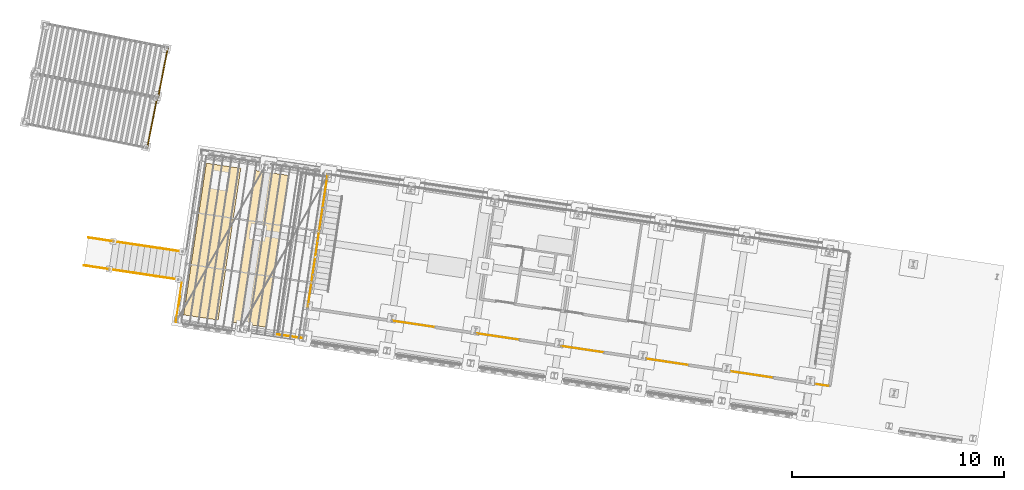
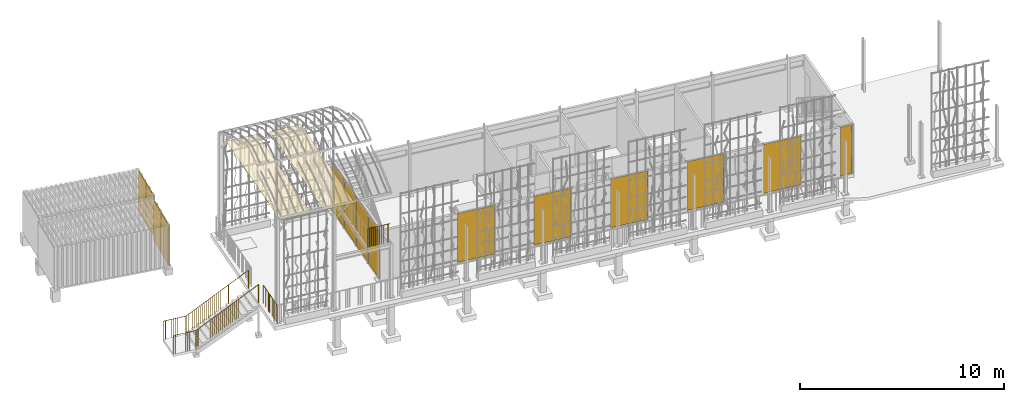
# One storey, part 137 of 142: 11 doors, 6 railings, 3 windows, 2 coverings, 5 elements without a shape of their own.
"""IFC4 building model written with IfcOpenShell, lengths in metres."""

from ifc_helpers import new_model, si_unit, direction, frame, origin_with_axes, place, context, subcontext, project, spatial, polyline, circle, outline, extrude, material, element, aggregate, save


model = new_model("IFC4")

# Units and contexts
model_context = context("Model", 3, precision=1e-05, world=origin_with_axes(), true_north=direction((0.0, 1.0)))
body_context = subcontext(model_context, "Body", "Model", "MODEL_VIEW")
ifc_project = project(units=[si_unit("LENGTHUNIT", "METRE"), si_unit("AREAUNIT", "SQUARE_METRE"), si_unit("VOLUMEUNIT", "CUBIC_METRE")], contexts=[model_context])

# Site, building, storey
site_placement = place(None, origin_with_axes())
site = spatial("IfcSite", under=ifc_project, at=site_placement, Name="Lares · Rua das Mercês · artigo 4771")
building_placement = place(site_placement, frame((15.0, 9.7, 14.65), z_axis=(0.0, 0.0, 1.0), x_axis=(0.989015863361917, -0.147809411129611, 0.0)))
building = spatial("IfcBuilding", under=site, at=building_placement, Name="Casa Sobreposta")
storey_placement = place(building_placement, origin_with_axes())
storey = spatial("IfcBuildingStorey", under=building, at=storey_placement, Name="00 · Habitação e estacionamento", Elevation=14.65)

# Doors
ifc_material_1 = material(Name="Vidro / Normalglas", Category="glass")
door_1_placement = place(storey_placement, frame((0.0, 0.0, 0.025), z_axis=(0.0, 0.0, 1.0), x_axis=(1.0, 0.0, 0.0)))
element("IfcDoor", 1, at=door_1_placement, inside=storey, material=ifc_material_1, Name="Folha de correr sul 2", OperationType="SLIDING_TO_LEFT", OverallHeight=2.918, OverallWidth=1.97133333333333, PredefinedType="DOOR", context=body_context, shape_type="SweptSolid", body=[
    extrude(outline(polyline([(6.039, 0.004), (6.039, -0.004), (4.06766666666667, -0.004), (4.06766666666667, 0.004), (6.039, 0.004)])), origin_with_axes(), (0.0, 0.0, 1.0), 2.918),
])
door_2_placement = place(storey_placement, frame((0.0, 0.0, 0.025), z_axis=(0.0, 0.0, 1.0), x_axis=(1.0, 0.0, 0.0)))
element("IfcDoor", 2, at=door_2_placement, inside=storey, material=ifc_material_1, Name="Folha de correr sul 4", OperationType="SLIDING_TO_LEFT", OverallHeight=2.918, OverallWidth=1.97133333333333, PredefinedType="DOOR", context=body_context, shape_type="SweptSolid", body=[
    extrude(outline(polyline([(10.0816666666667, 0.004), (10.0816666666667, -0.004), (8.11033333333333, -0.004), (8.11033333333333, 0.004), (10.0816666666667, 0.004)])), origin_with_axes(), (0.0, 0.0, 1.0), 2.918),
])
door_3_placement = place(storey_placement, frame((0.0, 0.0, 0.025), z_axis=(0.0, 0.0, 1.0), x_axis=(1.0, 0.0, 0.0)))
element("IfcDoor", 3, at=door_3_placement, inside=storey, material=ifc_material_1, Name="Folha de correr sul 6", OperationType="SLIDING_TO_LEFT", OverallHeight=2.918, OverallWidth=1.97133333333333, PredefinedType="DOOR", context=body_context, shape_type="SweptSolid", body=[
    extrude(outline(polyline([(14.1243333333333, 0.004), (14.1243333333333, -0.004), (12.153, -0.004), (12.153, 0.004), (14.1243333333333, 0.004)])), origin_with_axes(), (0.0, 0.0, 1.0), 2.918),
])
door_4_placement = place(storey_placement, frame((0.0, 0.0, 0.025), z_axis=(0.0, 0.0, 1.0), x_axis=(1.0, 0.0, 0.0)))
element("IfcDoor", 4, at=door_4_placement, inside=storey, material=ifc_material_1, Name="Folha de correr sul 8", OperationType="SLIDING_TO_LEFT", OverallHeight=2.918, OverallWidth=1.97133333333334, PredefinedType="DOOR", context=body_context, shape_type="SweptSolid", body=[
    extrude(outline(polyline([(18.167, 0.004), (18.167, -0.004), (16.1956666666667, -0.004), (16.1956666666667, 0.004), (18.167, 0.004)])), origin_with_axes(), (0.0, 0.0, 1.0), 2.918),
])
door_5_placement = place(storey_placement, frame((0.0, 0.0, 0.025), z_axis=(0.0, 0.0, 1.0), x_axis=(1.0, 0.0, 0.0)))
element("IfcDoor", 5, at=door_5_placement, inside=storey, material=ifc_material_1, Name="Folha de correr sul 10", OperationType="SLIDING_TO_LEFT", OverallHeight=2.918, OverallWidth=1.97133333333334, PredefinedType="DOOR", context=body_context, shape_type="SweptSolid", body=[
    extrude(outline(polyline([(22.2096666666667, 0.004), (22.2096666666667, -0.004), (20.2383333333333, -0.004), (20.2383333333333, 0.004), (22.2096666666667, 0.004)])), origin_with_axes(), (0.0, 0.0, 1.0), 2.918),
])
door_6_placement = place(storey_placement, frame((0.0, 0.0, 0.025), z_axis=(0.0, 0.0, 1.0), x_axis=(1.0, 0.0, 0.0)))
element("IfcDoor", 6, at=door_6_placement, inside=storey, material=ifc_material_1, Name="Folha de correr sul 12", OperationType="SLIDING_TO_LEFT", OverallHeight=2.918, OverallWidth=0.614000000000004, PredefinedType="DOOR", context=body_context, shape_type="SweptSolid", body=[
    extrude(outline(polyline([(24.895, 0.004), (24.895, -0.004), (24.281, -0.004), (24.281, 0.004), (24.895, 0.004)])), origin_with_axes(), (0.0, 0.0, 1.0), 2.918),
])

# Windows
window_1_placement = place(storey_placement, frame((0.0, 0.0, 0.025), z_axis=(0.0, 0.0, 1.0), x_axis=(1.0, 0.0, 0.0)))
element("IfcWindow", 7, at=window_1_placement, inside=storey, material=ifc_material_1, Name="Fachada poente integralmente envidraçada · módulo 1", OverallHeight=2.918, OverallWidth=1.55, PartitioningType="SINGLE_PANEL", PredefinedType="WINDOW", context=body_context, shape_type="SweptSolid", body=[
    extrude(outline(polyline([(-0.004, 1.575), (0.004, 1.575), (0.004, 0.025), (-0.004, 0.025), (-0.004, 1.575)])), origin_with_axes(), (0.0, 0.0, 1.0), 2.918),
])
window_2_placement = place(storey_placement, frame((0.0, 0.0, 0.025), z_axis=(0.0, 0.0, 1.0), x_axis=(1.0, 0.0, 0.0)))
element("IfcWindow", 8, at=window_2_placement, inside=storey, material=ifc_material_1, Name="Fachada poente integralmente envidraçada · módulo 2", OverallHeight=2.918, OverallWidth=1.55, PartitioningType="SINGLE_PANEL", PredefinedType="WINDOW", context=body_context, shape_type="SweptSolid", body=[
    extrude(outline(polyline([(-0.004, 3.175), (0.004, 3.175), (0.004, 1.625), (-0.004, 1.625), (-0.004, 3.175)])), origin_with_axes(), (0.0, 0.0, 1.0), 2.918),
])
window_3_placement = place(storey_placement, frame((0.0, 0.0, 0.025), z_axis=(0.0, 0.0, 1.0), x_axis=(1.0, 0.0, 0.0)))
element("IfcWindow", 9, at=window_3_placement, inside=storey, material=ifc_material_1, Name="Fachada poente integralmente envidraçada · módulo 3", OverallHeight=2.918, OverallWidth=1.55, PartitioningType="SINGLE_PANEL", PredefinedType="WINDOW", context=body_context, shape_type="SweptSolid", body=[
    extrude(outline(polyline([(-0.004, 4.775), (0.004, 4.775), (0.004, 3.225), (-0.004, 3.225), (-0.004, 4.775)])), origin_with_axes(), (0.0, 0.0, 1.0), 2.918),
])

# Door
door_7_placement = place(storey_placement, frame((0.0, 0.0, 0.025), z_axis=(0.0, 0.0, 1.0), x_axis=(1.0, 0.0, 0.0)))
element("IfcDoor", 10, at=door_7_placement, inside=storey, material=ifc_material_1, Name="Fachada poente integralmente envidraçada · módulo 4", OperationType="SLIDING_TO_LEFT", OverallHeight=2.918, OverallWidth=1.55, PredefinedType="DOOR", context=body_context, shape_type="SweptSolid", body=[
    extrude(outline(polyline([(-0.004, 6.375), (0.004, 6.375), (0.004, 4.825), (-0.004, 4.825), (-0.004, 6.375)])), origin_with_axes(), (0.0, 0.0, 1.0), 2.918),
])

# Assembly, doors
assembly_1_placement = place(storey_placement, frame((-14.4335953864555, 9.04888612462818, 0.0), z_axis=(0.0, 0.0, 1.0), x_axis=(0.999032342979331, -0.0439815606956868, 0.0)))
assembly_1 = element("IfcElementAssembly", 11, at=assembly_1_placement, inside=storey, Name="Contentor existente 1 · 6 m", ObjectType="EXISTING_SHIPPING_CONTAINER", PredefinedType="USERDEFINED")
ifc_material_2 = material(Name="Contentor · pintura 1", Category="steel")
door_8_placement = place(assembly_1_placement, frame((0.0, 0.0, -0.913141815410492), z_axis=(0.0, 0.0, 1.0), x_axis=(1.0, 0.0, 0.0)))
door_8 = element("IfcDoor", 12, at=door_8_placement, material=ifc_material_2, Name="Contentor · porta dupla", OperationType="SINGLE_SWING_LEFT", OverallHeight=2.39, OverallWidth=1.17, PredefinedType="DOOR", context=body_context, shape_type="SweptSolid", body=[
    extrude(outline(polyline([(5.955, 1.21), (6.005, 1.21), (6.005, 0.04), (5.955, 0.04), (5.955, 1.21)])), origin_with_axes(), (0.0, 0.0, 1.0), 2.39),
])
door_9_placement = place(assembly_1_placement, frame((0.0, 0.0, -0.913141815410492), z_axis=(0.0, 0.0, 1.0), x_axis=(1.0, 0.0, 0.0)))
door_9 = element("IfcDoor", 13, at=door_9_placement, material=ifc_material_2, Name="Contentor · porta dupla", OperationType="SINGLE_SWING_LEFT", OverallHeight=2.39, OverallWidth=1.17, PredefinedType="DOOR", context=body_context, shape_type="SweptSolid", body=[
    extrude(outline(polyline([(5.955, 2.39), (6.005, 2.39), (6.005, 1.22), (5.955, 1.22), (5.955, 2.39)])), origin_with_axes(), (0.0, 0.0, 1.0), 2.39),
])
aggregate(assembly_1, [door_8, door_9])

assembly_2_placement = place(storey_placement, frame((-14.5932944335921, 6.63122214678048, 0.0), z_axis=(0.0, 0.0, 1.0), x_axis=(0.998832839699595, -0.0483007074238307, 0.0)))
assembly_2 = element("IfcElementAssembly", 14, at=assembly_2_placement, inside=storey, Name="Contentor existente 2 · 6 m", ObjectType="EXISTING_SHIPPING_CONTAINER", PredefinedType="USERDEFINED")
ifc_material_3 = material(Name="Contentor · pintura 2", Category="steel")
door_10_placement = place(assembly_2_placement, frame((0.0, 0.0, -1.06875169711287), z_axis=(0.0, 0.0, 1.0), x_axis=(1.0, 0.0, 0.0)))
door_10 = element("IfcDoor", 15, at=door_10_placement, material=ifc_material_3, Name="Contentor · porta dupla", OperationType="SINGLE_SWING_LEFT", OverallHeight=2.39, OverallWidth=1.17, PredefinedType="DOOR", context=body_context, shape_type="SweptSolid", body=[
    extrude(outline(polyline([(5.955, 1.21), (6.005, 1.21), (6.005, 0.04), (5.955, 0.04), (5.955, 1.21)])), origin_with_axes(), (0.0, 0.0, 1.0), 2.39),
])
door_11_placement = place(assembly_2_placement, frame((0.0, 0.0, -1.06875169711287), z_axis=(0.0, 0.0, 1.0), x_axis=(1.0, 0.0, 0.0)))
door_11 = element("IfcDoor", 16, at=door_11_placement, material=ifc_material_3, Name="Contentor · porta dupla", OperationType="SINGLE_SWING_LEFT", OverallHeight=2.39, OverallWidth=1.17, PredefinedType="DOOR", context=body_context, shape_type="SweptSolid", body=[
    extrude(outline(polyline([(5.955, 2.39), (6.005, 2.39), (6.005, 1.22), (5.955, 1.22), (5.955, 2.39)])), origin_with_axes(), (0.0, 0.0, 1.0), 2.39),
])
aggregate(assembly_2, [door_10, door_11])

# Assembly, railing
assembly_3_placement = place(storey_placement, origin_with_axes())
assembly_3 = element("IfcElementAssembly", 17, at=assembly_3_placement, inside=storey, Name="Pódio · terraço, casa térrea e cisterna", ObjectType="CISTERN_PODIUM", PredefinedType="USERDEFINED")
ifc_material_4 = material(Name="Aço pintado / Stahl lackiert", Category="steel")
railing_1_placement = place(assembly_3_placement, origin_with_axes())
railing_1 = element("IfcRailing", 18, at=railing_1_placement, material=ifc_material_4, Name="Pódio · guarda poente sul", PredefinedType="GUARDRAIL", context=body_context, shape_type="SweptSolid", body=[
    extrude(circle(Radius=0.015), frame((-6.05, -1.55, 1.06), z_axis=(0.0, 1.0, 0.0), x_axis=(1.0, 0.0, 0.0)), (0.0, 0.0, 1.0), 1.85),
    extrude(circle(Radius=0.0175), frame((-6.05, -1.55, -0.04), z_axis=(0.0, 0.0, 1.0), x_axis=(1.0, 0.0, 0.0)), (0.0, 0.0, 1.0), 1.1),
    extrude(circle(Radius=0.006), frame((-6.05, -1.44117647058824, -0.04), z_axis=(0.0, 0.0, 1.0), x_axis=(1.0, 0.0, 0.0)), (0.0, 0.0, 1.0), 1.1),
    extrude(circle(Radius=0.006), frame((-6.05, -1.33235294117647, -0.04), z_axis=(0.0, 0.0, 1.0), x_axis=(1.0, 0.0, 0.0)), (0.0, 0.0, 1.0), 1.1),
    extrude(circle(Radius=0.006), frame((-6.05, -1.22352941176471, -0.04), z_axis=(0.0, 0.0, 1.0), x_axis=(1.0, 0.0, 0.0)), (0.0, 0.0, 1.0), 1.1),
    extrude(circle(Radius=0.006), frame((-6.05, -1.11470588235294, -0.04), z_axis=(0.0, 0.0, 1.0), x_axis=(1.0, 0.0, 0.0)), (0.0, 0.0, 1.0), 1.1),
    extrude(circle(Radius=0.006), frame((-6.05, -1.00588235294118, -0.04), z_axis=(0.0, 0.0, 1.0), x_axis=(1.0, 0.0, 0.0)), (0.0, 0.0, 1.0), 1.1),
    extrude(circle(Radius=0.006), frame((-6.05, -0.897058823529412, -0.04), z_axis=(0.0, 0.0, 1.0), x_axis=(1.0, 0.0, 0.0)), (0.0, 0.0, 1.0), 1.1),
    extrude(circle(Radius=0.006), frame((-6.05, -0.788235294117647, -0.04), z_axis=(0.0, 0.0, 1.0), x_axis=(1.0, 0.0, 0.0)), (0.0, 0.0, 1.0), 1.1),
    extrude(circle(Radius=0.006), frame((-6.05, -0.679411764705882, -0.04), z_axis=(0.0, 0.0, 1.0), x_axis=(1.0, 0.0, 0.0)), (0.0, 0.0, 1.0), 1.1),
    extrude(circle(Radius=0.006), frame((-6.05, -0.570588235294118, -0.04), z_axis=(0.0, 0.0, 1.0), x_axis=(1.0, 0.0, 0.0)), (0.0, 0.0, 1.0), 1.1),
    extrude(circle(Radius=0.0175), frame((-6.05, -0.461764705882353, -0.04), z_axis=(0.0, 0.0, 1.0), x_axis=(1.0, 0.0, 0.0)), (0.0, 0.0, 1.0), 1.1),
    extrude(circle(Radius=0.006), frame((-6.05, -0.352941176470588, -0.04), z_axis=(0.0, 0.0, 1.0), x_axis=(1.0, 0.0, 0.0)), (0.0, 0.0, 1.0), 1.1),
    extrude(circle(Radius=0.006), frame((-6.05, -0.244117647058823, -0.04), z_axis=(0.0, 0.0, 1.0), x_axis=(1.0, 0.0, 0.0)), (0.0, 0.0, 1.0), 1.1),
    extrude(circle(Radius=0.006), frame((-6.05, -0.135294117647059, -0.04), z_axis=(0.0, 0.0, 1.0), x_axis=(1.0, 0.0, 0.0)), (0.0, 0.0, 1.0), 1.1),
    extrude(circle(Radius=0.006), frame((-6.05, -0.0264705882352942, -0.04), z_axis=(0.0, 0.0, 1.0), x_axis=(1.0, 0.0, 0.0)), (0.0, 0.0, 1.0), 1.1),
    extrude(circle(Radius=0.006), frame((-6.05, 0.0823529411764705, -0.04), z_axis=(0.0, 0.0, 1.0), x_axis=(1.0, 0.0, 0.0)), (0.0, 0.0, 1.0), 1.1),
    extrude(circle(Radius=0.006), frame((-6.05, 0.191176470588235, -0.04), z_axis=(0.0, 0.0, 1.0), x_axis=(1.0, 0.0, 0.0)), (0.0, 0.0, 1.0), 1.1),
    extrude(circle(Radius=0.006), frame((-6.05, 0.3, -0.04), z_axis=(0.0, 0.0, 1.0), x_axis=(1.0, 0.0, 0.0)), (0.0, 0.0, 1.0), 1.1),
])
aggregate(assembly_3, [railing_1])

# Stair, railings
stair_placement = place(storey_placement, origin_with_axes())
stair = element("IfcStair", 19, at=stair_placement, inside=storey, Name="Jardim · escada pela fachada poente", PredefinedType="STRAIGHT_RUN_STAIR")
railing_2_placement = place(stair_placement, origin_with_axes())
railing_2 = element("IfcRailing", 20, at=railing_2_placement, material=ifc_material_4, Name="Jardim · corrimão poente", PredefinedType="GUARDRAIL", context=body_context, shape_type="SweptSolid", body=[
    extrude(circle(Radius=0.015), frame((-6.25, 0.435, 1.06), z_axis=(-0.865486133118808, 0.0, -0.500932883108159), x_axis=(0.0, 1.0, 0.0)), (0.0, 0.0, 1.0), 3.81288604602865),
    extrude(circle(Radius=0.0175), frame((-6.25, 0.435, -0.04), z_axis=(0.0, 0.0, 1.0), x_axis=(1.0, 0.0, 0.0)), (0.0, 0.0, 1.0), 1.1),
    extrude(circle(Radius=0.006), frame((-6.35645161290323, 0.435, -0.101612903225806), z_axis=(0.0, 0.0, 1.0), x_axis=(1.0, 0.0, 0.0)), (0.0, 0.0, 1.0), 1.1),
    extrude(circle(Radius=0.006), frame((-6.46290322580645, 0.435, -0.163225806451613), z_axis=(0.0, 0.0, 1.0), x_axis=(1.0, 0.0, 0.0)), (0.0, 0.0, 1.0), 1.1),
    extrude(circle(Radius=0.006), frame((-6.56935483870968, 0.435, -0.224838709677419), z_axis=(0.0, 0.0, 1.0), x_axis=(1.0, 0.0, 0.0)), (0.0, 0.0, 1.0), 1.1),
    extrude(circle(Radius=0.006), frame((-6.6758064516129, 0.435, -0.286451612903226), z_axis=(0.0, 0.0, 1.0), x_axis=(1.0, 0.0, 0.0)), (0.0, 0.0, 1.0), 1.1),
    extrude(circle(Radius=0.006), frame((-6.78225806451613, 0.435, -0.348064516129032), z_axis=(0.0, 0.0, 1.0), x_axis=(1.0, 0.0, 0.0)), (0.0, 0.0, 1.0), 1.1),
    extrude(circle(Radius=0.006), frame((-6.88870967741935, 0.435, -0.409677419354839), z_axis=(0.0, 0.0, 1.0), x_axis=(1.0, 0.0, 0.0)), (0.0, 0.0, 1.0), 1.1),
    extrude(circle(Radius=0.006), frame((-6.99516129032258, 0.435, -0.471290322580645), z_axis=(0.0, 0.0, 1.0), x_axis=(1.0, 0.0, 0.0)), (0.0, 0.0, 1.0), 1.1),
    extrude(circle(Radius=0.006), frame((-7.10161290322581, 0.435, -0.532903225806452), z_axis=(0.0, 0.0, 1.0), x_axis=(1.0, 0.0, 0.0)), (0.0, 0.0, 1.0), 1.1),
    extrude(circle(Radius=0.006), frame((-7.20806451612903, 0.435, -0.594516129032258), z_axis=(0.0, 0.0, 1.0), x_axis=(1.0, 0.0, 0.0)), (0.0, 0.0, 1.0), 1.1),
    extrude(circle(Radius=0.0175), frame((-7.31451612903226, 0.435, -0.656129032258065), z_axis=(0.0, 0.0, 1.0), x_axis=(1.0, 0.0, 0.0)), (0.0, 0.0, 1.0), 1.1),
    extrude(circle(Radius=0.006), frame((-7.42096774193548, 0.435, -0.717741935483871), z_axis=(0.0, 0.0, 1.0), x_axis=(1.0, 0.0, 0.0)), (0.0, 0.0, 1.0), 1.1),
    extrude(circle(Radius=0.006), frame((-7.52741935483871, 0.435, -0.779354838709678), z_axis=(0.0, 0.0, 1.0), x_axis=(1.0, 0.0, 0.0)), (0.0, 0.0, 1.0), 1.1),
    extrude(circle(Radius=0.006), frame((-7.63387096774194, 0.435, -0.840967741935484), z_axis=(0.0, 0.0, 1.0), x_axis=(1.0, 0.0, 0.0)), (0.0, 0.0, 1.0), 1.1),
    extrude(circle(Radius=0.006), frame((-7.74032258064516, 0.435, -0.902580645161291), z_axis=(0.0, 0.0, 1.0), x_axis=(1.0, 0.0, 0.0)), (0.0, 0.0, 1.0), 1.1),
    extrude(circle(Radius=0.006), frame((-7.84677419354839, 0.435, -0.964193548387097), z_axis=(0.0, 0.0, 1.0), x_axis=(1.0, 0.0, 0.0)), (0.0, 0.0, 1.0), 1.1),
    extrude(circle(Radius=0.006), frame((-7.95322580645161, 0.435, -1.0258064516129), z_axis=(0.0, 0.0, 1.0), x_axis=(1.0, 0.0, 0.0)), (0.0, 0.0, 1.0), 1.1),
    extrude(circle(Radius=0.006), frame((-8.05967741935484, 0.435, -1.08741935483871), z_axis=(0.0, 0.0, 1.0), x_axis=(1.0, 0.0, 0.0)), (0.0, 0.0, 1.0), 1.1),
    extrude(circle(Radius=0.006), frame((-8.16612903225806, 0.435, -1.14903225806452), z_axis=(0.0, 0.0, 1.0), x_axis=(1.0, 0.0, 0.0)), (0.0, 0.0, 1.0), 1.1),
    extrude(circle(Radius=0.006), frame((-8.27258064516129, 0.435, -1.21064516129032), z_axis=(0.0, 0.0, 1.0), x_axis=(1.0, 0.0, 0.0)), (0.0, 0.0, 1.0), 1.1),
    extrude(circle(Radius=0.0175), frame((-8.37903225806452, 0.435, -1.27225806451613), z_axis=(0.0, 0.0, 1.0), x_axis=(1.0, 0.0, 0.0)), (0.0, 0.0, 1.0), 1.1),
    extrude(circle(Radius=0.006), frame((-8.48548387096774, 0.435, -1.33387096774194), z_axis=(0.0, 0.0, 1.0), x_axis=(1.0, 0.0, 0.0)), (0.0, 0.0, 1.0), 1.1),
    extrude(circle(Radius=0.006), frame((-8.59193548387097, 0.435, -1.39548387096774), z_axis=(0.0, 0.0, 1.0), x_axis=(1.0, 0.0, 0.0)), (0.0, 0.0, 1.0), 1.1),
    extrude(circle(Radius=0.006), frame((-8.69838709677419, 0.435, -1.45709677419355), z_axis=(0.0, 0.0, 1.0), x_axis=(1.0, 0.0, 0.0)), (0.0, 0.0, 1.0), 1.1),
    extrude(circle(Radius=0.006), frame((-8.80483870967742, 0.435, -1.51870967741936), z_axis=(0.0, 0.0, 1.0), x_axis=(1.0, 0.0, 0.0)), (0.0, 0.0, 1.0), 1.1),
    extrude(circle(Radius=0.006), frame((-8.91129032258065, 0.435, -1.58032258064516), z_axis=(0.0, 0.0, 1.0), x_axis=(1.0, 0.0, 0.0)), (0.0, 0.0, 1.0), 1.1),
    extrude(circle(Radius=0.006), frame((-9.01774193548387, 0.435, -1.64193548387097), z_axis=(0.0, 0.0, 1.0), x_axis=(1.0, 0.0, 0.0)), (0.0, 0.0, 1.0), 1.1),
    extrude(circle(Radius=0.006), frame((-9.1241935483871, 0.435, -1.70354838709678), z_axis=(0.0, 0.0, 1.0), x_axis=(1.0, 0.0, 0.0)), (0.0, 0.0, 1.0), 1.1),
    extrude(circle(Radius=0.006), frame((-9.23064516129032, 0.435, -1.76516129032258), z_axis=(0.0, 0.0, 1.0), x_axis=(1.0, 0.0, 0.0)), (0.0, 0.0, 1.0), 1.1),
    extrude(circle(Radius=0.006), frame((-9.33709677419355, 0.435, -1.82677419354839), z_axis=(0.0, 0.0, 1.0), x_axis=(1.0, 0.0, 0.0)), (0.0, 0.0, 1.0), 1.1),
    extrude(circle(Radius=0.0175), frame((-9.44354838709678, 0.435, -1.88838709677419), z_axis=(0.0, 0.0, 1.0), x_axis=(1.0, 0.0, 0.0)), (0.0, 0.0, 1.0), 1.1),
    extrude(circle(Radius=0.006), frame((-9.55, 0.435, -1.95), z_axis=(0.0, 0.0, 1.0), x_axis=(1.0, 0.0, 0.0)), (0.0, 0.0, 1.0), 1.1),
])
railing_3_placement = place(stair_placement, origin_with_axes())
railing_3 = element("IfcRailing", 21, at=railing_3_placement, material=ifc_material_4, Name="Jardim · guarda do patamar", PredefinedType="GUARDRAIL", context=body_context, shape_type="SweptSolid", body=[
    extrude(circle(Radius=0.015), frame((-9.55, 0.435, -0.850000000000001), z_axis=(-1.0, 0.0, 0.0), x_axis=(0.0, 1.0, 0.0)), (0.0, 0.0, 1.0), 1.2),
    extrude(circle(Radius=0.0175), frame((-9.55, 0.435, -1.95), z_axis=(0.0, 0.0, 1.0), x_axis=(1.0, 0.0, 0.0)), (0.0, 0.0, 1.0), 1.1),
    extrude(circle(Radius=0.006), frame((-9.65909090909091, 0.435, -1.95), z_axis=(0.0, 0.0, 1.0), x_axis=(1.0, 0.0, 0.0)), (0.0, 0.0, 1.0), 1.1),
    extrude(circle(Radius=0.006), frame((-9.76818181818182, 0.435, -1.95), z_axis=(0.0, 0.0, 1.0), x_axis=(1.0, 0.0, 0.0)), (0.0, 0.0, 1.0), 1.1),
    extrude(circle(Radius=0.006), frame((-9.87727272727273, 0.435, -1.95), z_axis=(0.0, 0.0, 1.0), x_axis=(1.0, 0.0, 0.0)), (0.0, 0.0, 1.0), 1.1),
    extrude(circle(Radius=0.006), frame((-9.98636363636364, 0.435, -1.95), z_axis=(0.0, 0.0, 1.0), x_axis=(1.0, 0.0, 0.0)), (0.0, 0.0, 1.0), 1.1),
    extrude(circle(Radius=0.006), frame((-10.0954545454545, 0.435, -1.95), z_axis=(0.0, 0.0, 1.0), x_axis=(1.0, 0.0, 0.0)), (0.0, 0.0, 1.0), 1.1),
    extrude(circle(Radius=0.006), frame((-10.2045454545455, 0.435, -1.95), z_axis=(0.0, 0.0, 1.0), x_axis=(1.0, 0.0, 0.0)), (0.0, 0.0, 1.0), 1.1),
    extrude(circle(Radius=0.006), frame((-10.3136363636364, 0.435, -1.95), z_axis=(0.0, 0.0, 1.0), x_axis=(1.0, 0.0, 0.0)), (0.0, 0.0, 1.0), 1.1),
    extrude(circle(Radius=0.006), frame((-10.4227272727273, 0.435, -1.95), z_axis=(0.0, 0.0, 1.0), x_axis=(1.0, 0.0, 0.0)), (0.0, 0.0, 1.0), 1.1),
    extrude(circle(Radius=0.006), frame((-10.5318181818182, 0.435, -1.95), z_axis=(0.0, 0.0, 1.0), x_axis=(1.0, 0.0, 0.0)), (0.0, 0.0, 1.0), 1.1),
    extrude(circle(Radius=0.0175), frame((-10.6409090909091, 0.435, -1.95), z_axis=(0.0, 0.0, 1.0), x_axis=(1.0, 0.0, 0.0)), (0.0, 0.0, 1.0), 1.1),
    extrude(circle(Radius=0.006), frame((-10.75, 0.435, -1.95), z_axis=(0.0, 0.0, 1.0), x_axis=(1.0, 0.0, 0.0)), (0.0, 0.0, 1.0), 1.1),
])
railing_4_placement = place(stair_placement, origin_with_axes())
railing_4 = element("IfcRailing", 22, at=railing_4_placement, material=ifc_material_4, Name="Jardim · corrimão poente", PredefinedType="GUARDRAIL", context=body_context, shape_type="SweptSolid", body=[
    extrude(circle(Radius=0.015), frame((-6.25, 1.765, 1.06), z_axis=(-0.865486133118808, 0.0, -0.500932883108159), x_axis=(0.0, 1.0, 0.0)), (0.0, 0.0, 1.0), 3.81288604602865),
    extrude(circle(Radius=0.0175), frame((-6.25, 1.765, -0.04), z_axis=(0.0, 0.0, 1.0), x_axis=(1.0, 0.0, 0.0)), (0.0, 0.0, 1.0), 1.1),
    extrude(circle(Radius=0.006), frame((-6.35645161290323, 1.765, -0.101612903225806), z_axis=(0.0, 0.0, 1.0), x_axis=(1.0, 0.0, 0.0)), (0.0, 0.0, 1.0), 1.1),
    extrude(circle(Radius=0.006), frame((-6.46290322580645, 1.765, -0.163225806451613), z_axis=(0.0, 0.0, 1.0), x_axis=(1.0, 0.0, 0.0)), (0.0, 0.0, 1.0), 1.1),
    extrude(circle(Radius=0.006), frame((-6.56935483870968, 1.765, -0.224838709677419), z_axis=(0.0, 0.0, 1.0), x_axis=(1.0, 0.0, 0.0)), (0.0, 0.0, 1.0), 1.1),
    extrude(circle(Radius=0.006), frame((-6.6758064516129, 1.765, -0.286451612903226), z_axis=(0.0, 0.0, 1.0), x_axis=(1.0, 0.0, 0.0)), (0.0, 0.0, 1.0), 1.1),
    extrude(circle(Radius=0.006), frame((-6.78225806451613, 1.765, -0.348064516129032), z_axis=(0.0, 0.0, 1.0), x_axis=(1.0, 0.0, 0.0)), (0.0, 0.0, 1.0), 1.1),
    extrude(circle(Radius=0.006), frame((-6.88870967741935, 1.765, -0.409677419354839), z_axis=(0.0, 0.0, 1.0), x_axis=(1.0, 0.0, 0.0)), (0.0, 0.0, 1.0), 1.1),
    extrude(circle(Radius=0.006), frame((-6.99516129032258, 1.765, -0.471290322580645), z_axis=(0.0, 0.0, 1.0), x_axis=(1.0, 0.0, 0.0)), (0.0, 0.0, 1.0), 1.1),
    extrude(circle(Radius=0.006), frame((-7.10161290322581, 1.765, -0.532903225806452), z_axis=(0.0, 0.0, 1.0), x_axis=(1.0, 0.0, 0.0)), (0.0, 0.0, 1.0), 1.1),
    extrude(circle(Radius=0.006), frame((-7.20806451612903, 1.765, -0.594516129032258), z_axis=(0.0, 0.0, 1.0), x_axis=(1.0, 0.0, 0.0)), (0.0, 0.0, 1.0), 1.1),
    extrude(circle(Radius=0.0175), frame((-7.31451612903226, 1.765, -0.656129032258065), z_axis=(0.0, 0.0, 1.0), x_axis=(1.0, 0.0, 0.0)), (0.0, 0.0, 1.0), 1.1),
    extrude(circle(Radius=0.006), frame((-7.42096774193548, 1.765, -0.717741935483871), z_axis=(0.0, 0.0, 1.0), x_axis=(1.0, 0.0, 0.0)), (0.0, 0.0, 1.0), 1.1),
    extrude(circle(Radius=0.006), frame((-7.52741935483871, 1.765, -0.779354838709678), z_axis=(0.0, 0.0, 1.0), x_axis=(1.0, 0.0, 0.0)), (0.0, 0.0, 1.0), 1.1),
    extrude(circle(Radius=0.006), frame((-7.63387096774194, 1.765, -0.840967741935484), z_axis=(0.0, 0.0, 1.0), x_axis=(1.0, 0.0, 0.0)), (0.0, 0.0, 1.0), 1.1),
    extrude(circle(Radius=0.006), frame((-7.74032258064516, 1.765, -0.902580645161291), z_axis=(0.0, 0.0, 1.0), x_axis=(1.0, 0.0, 0.0)), (0.0, 0.0, 1.0), 1.1),
    extrude(circle(Radius=0.006), frame((-7.84677419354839, 1.765, -0.964193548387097), z_axis=(0.0, 0.0, 1.0), x_axis=(1.0, 0.0, 0.0)), (0.0, 0.0, 1.0), 1.1),
    extrude(circle(Radius=0.006), frame((-7.95322580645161, 1.765, -1.0258064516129), z_axis=(0.0, 0.0, 1.0), x_axis=(1.0, 0.0, 0.0)), (0.0, 0.0, 1.0), 1.1),
    extrude(circle(Radius=0.006), frame((-8.05967741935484, 1.765, -1.08741935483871), z_axis=(0.0, 0.0, 1.0), x_axis=(1.0, 0.0, 0.0)), (0.0, 0.0, 1.0), 1.1),
    extrude(circle(Radius=0.006), frame((-8.16612903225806, 1.765, -1.14903225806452), z_axis=(0.0, 0.0, 1.0), x_axis=(1.0, 0.0, 0.0)), (0.0, 0.0, 1.0), 1.1),
    extrude(circle(Radius=0.006), frame((-8.27258064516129, 1.765, -1.21064516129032), z_axis=(0.0, 0.0, 1.0), x_axis=(1.0, 0.0, 0.0)), (0.0, 0.0, 1.0), 1.1),
    extrude(circle(Radius=0.0175), frame((-8.37903225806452, 1.765, -1.27225806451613), z_axis=(0.0, 0.0, 1.0), x_axis=(1.0, 0.0, 0.0)), (0.0, 0.0, 1.0), 1.1),
    extrude(circle(Radius=0.006), frame((-8.48548387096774, 1.765, -1.33387096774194), z_axis=(0.0, 0.0, 1.0), x_axis=(1.0, 0.0, 0.0)), (0.0, 0.0, 1.0), 1.1),
    extrude(circle(Radius=0.006), frame((-8.59193548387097, 1.765, -1.39548387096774), z_axis=(0.0, 0.0, 1.0), x_axis=(1.0, 0.0, 0.0)), (0.0, 0.0, 1.0), 1.1),
    extrude(circle(Radius=0.006), frame((-8.69838709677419, 1.765, -1.45709677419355), z_axis=(0.0, 0.0, 1.0), x_axis=(1.0, 0.0, 0.0)), (0.0, 0.0, 1.0), 1.1),
    extrude(circle(Radius=0.006), frame((-8.80483870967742, 1.765, -1.51870967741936), z_axis=(0.0, 0.0, 1.0), x_axis=(1.0, 0.0, 0.0)), (0.0, 0.0, 1.0), 1.1),
    extrude(circle(Radius=0.006), frame((-8.91129032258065, 1.765, -1.58032258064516), z_axis=(0.0, 0.0, 1.0), x_axis=(1.0, 0.0, 0.0)), (0.0, 0.0, 1.0), 1.1),
    extrude(circle(Radius=0.006), frame((-9.01774193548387, 1.765, -1.64193548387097), z_axis=(0.0, 0.0, 1.0), x_axis=(1.0, 0.0, 0.0)), (0.0, 0.0, 1.0), 1.1),
    extrude(circle(Radius=0.006), frame((-9.1241935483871, 1.765, -1.70354838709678), z_axis=(0.0, 0.0, 1.0), x_axis=(1.0, 0.0, 0.0)), (0.0, 0.0, 1.0), 1.1),
    extrude(circle(Radius=0.006), frame((-9.23064516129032, 1.765, -1.76516129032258), z_axis=(0.0, 0.0, 1.0), x_axis=(1.0, 0.0, 0.0)), (0.0, 0.0, 1.0), 1.1),
    extrude(circle(Radius=0.006), frame((-9.33709677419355, 1.765, -1.82677419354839), z_axis=(0.0, 0.0, 1.0), x_axis=(1.0, 0.0, 0.0)), (0.0, 0.0, 1.0), 1.1),
    extrude(circle(Radius=0.0175), frame((-9.44354838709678, 1.765, -1.88838709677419), z_axis=(0.0, 0.0, 1.0), x_axis=(1.0, 0.0, 0.0)), (0.0, 0.0, 1.0), 1.1),
    extrude(circle(Radius=0.006), frame((-9.55, 1.765, -1.95), z_axis=(0.0, 0.0, 1.0), x_axis=(1.0, 0.0, 0.0)), (0.0, 0.0, 1.0), 1.1),
])
railing_5_placement = place(stair_placement, origin_with_axes())
railing_5 = element("IfcRailing", 23, at=railing_5_placement, material=ifc_material_4, Name="Jardim · guarda do patamar", PredefinedType="GUARDRAIL", context=body_context, shape_type="SweptSolid", body=[
    extrude(circle(Radius=0.015), frame((-9.55, 1.765, -0.850000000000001), z_axis=(-1.0, 0.0, 0.0), x_axis=(0.0, 1.0, 0.0)), (0.0, 0.0, 1.0), 1.2),
    extrude(circle(Radius=0.0175), frame((-9.55, 1.765, -1.95), z_axis=(0.0, 0.0, 1.0), x_axis=(1.0, 0.0, 0.0)), (0.0, 0.0, 1.0), 1.1),
    extrude(circle(Radius=0.006), frame((-9.65909090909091, 1.765, -1.95), z_axis=(0.0, 0.0, 1.0), x_axis=(1.0, 0.0, 0.0)), (0.0, 0.0, 1.0), 1.1),
    extrude(circle(Radius=0.006), frame((-9.76818181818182, 1.765, -1.95), z_axis=(0.0, 0.0, 1.0), x_axis=(1.0, 0.0, 0.0)), (0.0, 0.0, 1.0), 1.1),
    extrude(circle(Radius=0.006), frame((-9.87727272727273, 1.765, -1.95), z_axis=(0.0, 0.0, 1.0), x_axis=(1.0, 0.0, 0.0)), (0.0, 0.0, 1.0), 1.1),
    extrude(circle(Radius=0.006), frame((-9.98636363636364, 1.765, -1.95), z_axis=(0.0, 0.0, 1.0), x_axis=(1.0, 0.0, 0.0)), (0.0, 0.0, 1.0), 1.1),
    extrude(circle(Radius=0.006), frame((-10.0954545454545, 1.765, -1.95), z_axis=(0.0, 0.0, 1.0), x_axis=(1.0, 0.0, 0.0)), (0.0, 0.0, 1.0), 1.1),
    extrude(circle(Radius=0.006), frame((-10.2045454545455, 1.765, -1.95), z_axis=(0.0, 0.0, 1.0), x_axis=(1.0, 0.0, 0.0)), (0.0, 0.0, 1.0), 1.1),
    extrude(circle(Radius=0.006), frame((-10.3136363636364, 1.765, -1.95), z_axis=(0.0, 0.0, 1.0), x_axis=(1.0, 0.0, 0.0)), (0.0, 0.0, 1.0), 1.1),
    extrude(circle(Radius=0.006), frame((-10.4227272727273, 1.765, -1.95), z_axis=(0.0, 0.0, 1.0), x_axis=(1.0, 0.0, 0.0)), (0.0, 0.0, 1.0), 1.1),
    extrude(circle(Radius=0.006), frame((-10.5318181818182, 1.765, -1.95), z_axis=(0.0, 0.0, 1.0), x_axis=(1.0, 0.0, 0.0)), (0.0, 0.0, 1.0), 1.1),
    extrude(circle(Radius=0.0175), frame((-10.6409090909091, 1.765, -1.95), z_axis=(0.0, 0.0, 1.0), x_axis=(1.0, 0.0, 0.0)), (0.0, 0.0, 1.0), 1.1),
    extrude(circle(Radius=0.006), frame((-10.75, 1.765, -1.95), z_axis=(0.0, 0.0, 1.0), x_axis=(1.0, 0.0, 0.0)), (0.0, 0.0, 1.0), 1.1),
])
aggregate(stair, [railing_2, railing_3, railing_4, railing_5])

# Assembly, railing, coverings
assembly_4_placement = place(storey_placement, origin_with_axes())
assembly_4 = element("IfcElementAssembly", 24, at=assembly_4_placement, inside=storey, Name="Pérgola · prolongamento da estufa 6 m", ObjectType="PERGOLA_GREENHOUSE_EXTENSION", PredefinedType="USERDEFINED")
railing_6_placement = place(assembly_4_placement, origin_with_axes())
railing_6 = element("IfcRailing", 25, at=railing_6_placement, material=ifc_material_4, Name="Varanda · guarda", PredefinedType="GUARDRAIL", context=body_context, shape_type="SweptSolid", body=[
    extrude(circle(Radius=0.015), frame((-1.225, -1.44, 4.34), z_axis=(1.0, 0.0, 0.0), x_axis=(0.0, -1.0, 0.0)), (0.0, 0.0, 1.0), 1.175),
    extrude(circle(Radius=0.0175), frame((-1.225, -1.44, 3.24), z_axis=(0.0, 0.0, 1.0), x_axis=(1.0, 0.0, 0.0)), (0.0, 0.0, 1.0), 1.1),
    extrude(circle(Radius=0.006), frame((-1.11818181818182, -1.44, 3.24), z_axis=(0.0, 0.0, 1.0), x_axis=(1.0, 0.0, 0.0)), (0.0, 0.0, 1.0), 1.1),
    extrude(circle(Radius=0.006), frame((-1.01136363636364, -1.44, 3.24), z_axis=(0.0, 0.0, 1.0), x_axis=(1.0, 0.0, 0.0)), (0.0, 0.0, 1.0), 1.1),
    extrude(circle(Radius=0.006), frame((-0.904545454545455, -1.44, 3.24), z_axis=(0.0, 0.0, 1.0), x_axis=(1.0, 0.0, 0.0)), (0.0, 0.0, 1.0), 1.1),
    extrude(circle(Radius=0.006), frame((-0.797727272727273, -1.44, 3.24), z_axis=(0.0, 0.0, 1.0), x_axis=(1.0, 0.0, 0.0)), (0.0, 0.0, 1.0), 1.1),
    extrude(circle(Radius=0.006), frame((-0.690909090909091, -1.44, 3.24), z_axis=(0.0, 0.0, 1.0), x_axis=(1.0, 0.0, 0.0)), (0.0, 0.0, 1.0), 1.1),
    extrude(circle(Radius=0.006), frame((-0.584090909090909, -1.44, 3.24), z_axis=(0.0, 0.0, 1.0), x_axis=(1.0, 0.0, 0.0)), (0.0, 0.0, 1.0), 1.1),
    extrude(circle(Radius=0.006), frame((-0.477272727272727, -1.44, 3.24), z_axis=(0.0, 0.0, 1.0), x_axis=(1.0, 0.0, 0.0)), (0.0, 0.0, 1.0), 1.1),
    extrude(circle(Radius=0.006), frame((-0.370454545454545, -1.44, 3.24), z_axis=(0.0, 0.0, 1.0), x_axis=(1.0, 0.0, 0.0)), (0.0, 0.0, 1.0), 1.1),
    extrude(circle(Radius=0.006), frame((-0.263636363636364, -1.44, 3.24), z_axis=(0.0, 0.0, 1.0), x_axis=(1.0, 0.0, 0.0)), (0.0, 0.0, 1.0), 1.1),
    extrude(circle(Radius=0.0175), frame((-0.156818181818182, -1.44, 3.24), z_axis=(0.0, 0.0, 1.0), x_axis=(1.0, 0.0, 0.0)), (0.0, 0.0, 1.0), 1.1),
    extrude(circle(Radius=0.006), frame((-0.05, -1.44, 3.24), z_axis=(0.0, 0.0, 1.0), x_axis=(1.0, 0.0, 0.0)), (0.0, 0.0, 1.0), 1.1),
])
ifc_material_5 = material(Name="Tecido de sombreamento — hipótese", Category="fabric")
covering_1_placement = place(assembly_4_placement, frame((0.0, 0.0, 5.86), z_axis=(0.0, 0.0, 1.0), x_axis=(1.0, 0.0, 0.0)))
covering_1 = element("IfcCovering", 26, at=covering_1_placement, material=ifc_material_5, Name="Pátio · sombreador têxtil retrátil", ObjectType="Pátio · sombreador têxtil retrátil", PredefinedType="USERDEFINED", context=body_context, shape_type="SweptSolid", body=[
    extrude(outline(polyline([(-4.1, -1.18), (-4.1, 6.07), (-5.75, 6.07), (-5.75, -1.18), (-4.1, -1.18)])), origin_with_axes(), (0.0, 0.0, 1.0), 0.004),
])
covering_2_placement = place(assembly_4_placement, frame((0.0, 0.0, 5.86), z_axis=(0.0, 0.0, 1.0), x_axis=(1.0, 0.0, 0.0)))
covering_2 = element("IfcCovering", 27, at=covering_2_placement, material=ifc_material_5, Name="Pátio · sombreador têxtil retrátil", ObjectType="Pátio · sombreador têxtil retrátil", PredefinedType="USERDEFINED", context=body_context, shape_type="SweptSolid", body=[
    extrude(outline(polyline([(-1.8, -1.18), (-1.8, 6.07), (-3.45, 6.07), (-3.45, -1.18), (-1.8, -1.18)])), origin_with_axes(), (0.0, 0.0, 1.0), 0.004),
])
aggregate(assembly_4, [railing_6, covering_1, covering_2])

save(model, "model.ifc")
